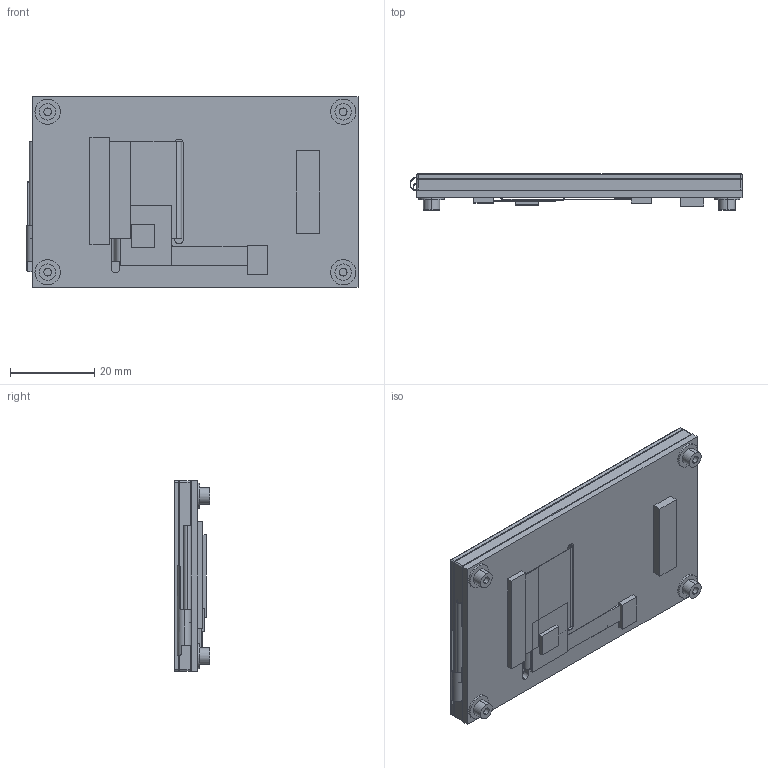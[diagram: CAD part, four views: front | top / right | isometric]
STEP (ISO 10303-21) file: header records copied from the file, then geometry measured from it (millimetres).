
FILE_DESCRIPTION (( 'STEP AP203' ), '1' );
FILE_NAME ('TFT_BOARD_ASSEMBLY.STEP', '2019-07-01T16:20:34', ( '' ), ( '' ), 'SwSTEP 2.0', 'SolidWorks 2015', '' );
FILE_SCHEMA (( 'CONFIG_CONTROL_DESIGN' ));
Length unit declared in the file: millimetre
Products named in the file (5): Touch Tail; TFT Tail; CFA10097; TFT_BOARD_ASSEMBLY; TFT Screen
Assembly tree (4 placements, depth 2):
  TFT_BOARD_ASSEMBLY
    CFA10097
    TFT Screen
    TFT Tail
    Touch Tail
Bounding box: 78.63 x 8.51 x 45 mm (x, y, z)
Volume: 19537.7 mm3; surface area: 19730.8 mm2
Topology: 4 solids, 4 shells, 191 faces, 462 edges, 296 vertices
Faces by surface type: plane 110, cylinder 73, bspline 8
Entity records: 6177 total; most frequent: CARTESIAN_POINT 1212, ORIENTED_EDGE 924, DIRECTION 912, EDGE_CURVE 462, AXIS2_PLACEMENT_3D 316, VERTEX_POINT 296, VECTOR 280, LINE 280
